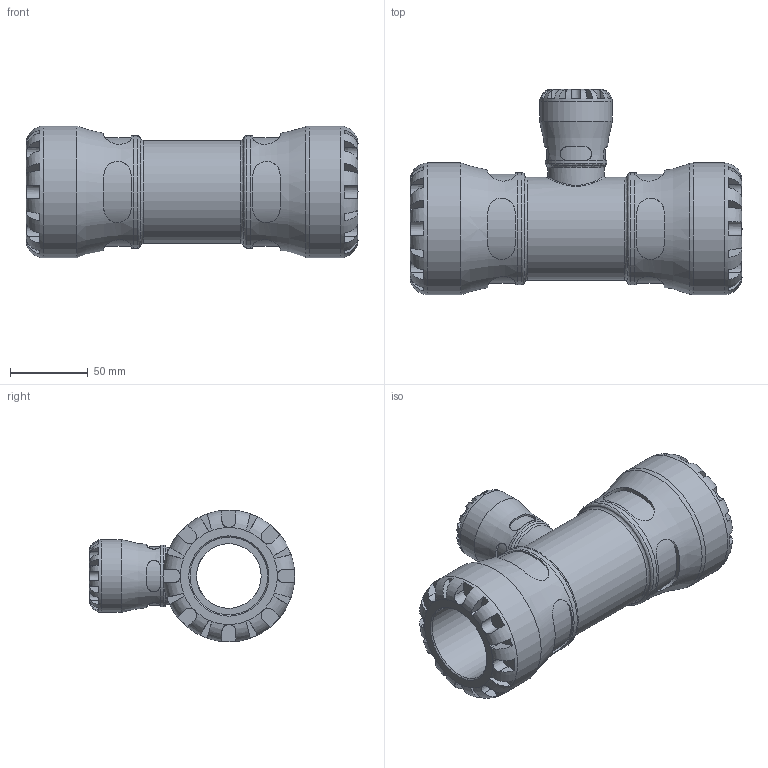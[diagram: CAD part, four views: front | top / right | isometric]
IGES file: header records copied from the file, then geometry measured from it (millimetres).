
Global section: file name: 103400050025_193400050025.ipt; native system: Autodesk Inventor 2015; preprocessor: unknown; author: KIM; date: 20170122.114104; units: millimetre
Bounding box: 214 x 132.5 x 85 mm (x, y, z)
Volume: 602137.8 mm3; surface area: 110277.8 mm2
Topology: 1 solids, 1 shells, 287 faces, 749 edges, 477 vertices
Faces by surface type: plane 174, revolution 68, cylinder 44, bspline 1
Full cylindrical faces by diameter (mm): 36.66 x1, 39.95 x1, 47 x1, 66.3 x1, 72.25 x2, 85 x2
